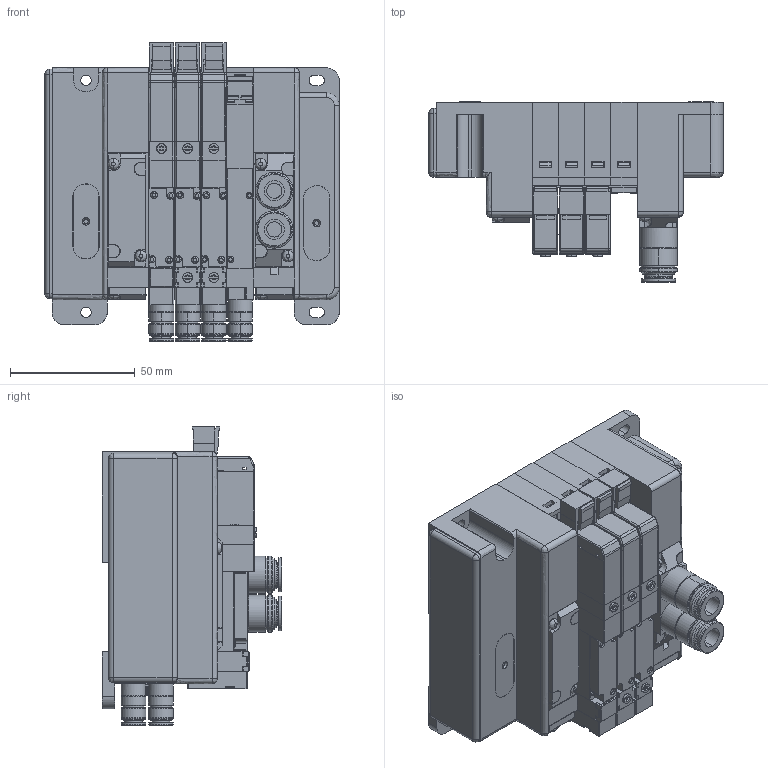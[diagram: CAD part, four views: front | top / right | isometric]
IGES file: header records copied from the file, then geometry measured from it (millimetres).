
Start section: ------------------------------------------------------------------------
Global section: file name: D:\ICADMX\tmp\trans3d_spg\CVICAD02.2536.F10M4XNJ-JR_14199.igs; native system: spGate; preprocessor: ver12.6.6; author: Unknown; organization: Unknown; date: 200901.145327; units: millimetre
Bounding box: 118 x 72.1 x 119.5 mm (x, y, z)
Volume: 460962.1 mm3; surface area: 142469.6 mm2
Topology: 39 solids, 39 shells, 3460 faces, 9241 edges, 6424 vertices
Faces by surface type: bspline 3460
